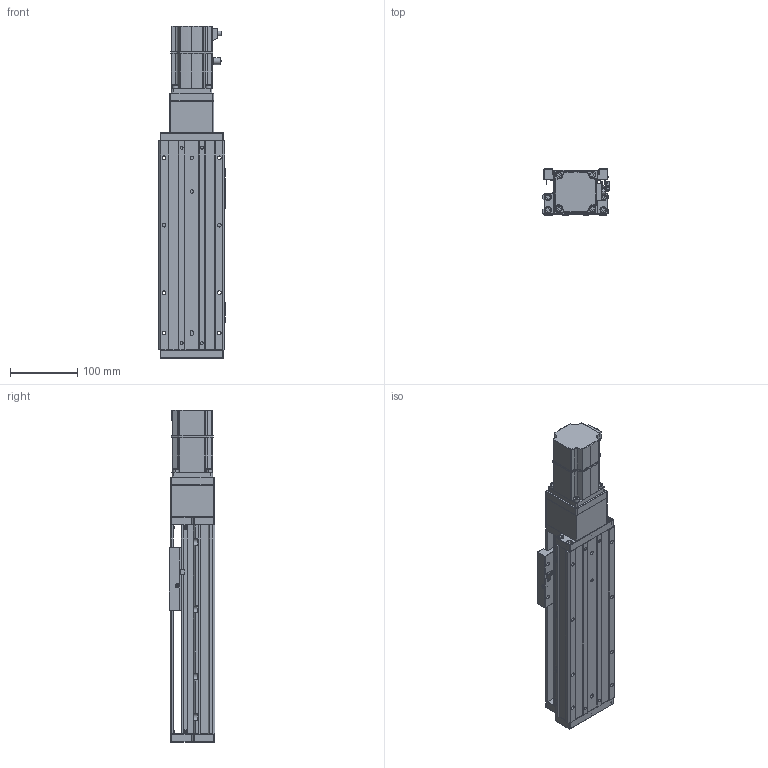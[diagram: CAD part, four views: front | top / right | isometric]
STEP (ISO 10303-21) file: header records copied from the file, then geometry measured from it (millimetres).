
FILE_DESCRIPTION (( 'STEP AP203' ), '1' );
FILE_NAME ('KTHA100-150-BC-M20-C4L.step', '2022-04-26T01:43:29', ( '微软用户' ), ( '微软中国' ), 'SwSTEP 2.0', 'SolidWorks 2020', '' );
FILE_SCHEMA (( 'CONFIG_CONTROL_DESIGN' ));
Length unit declared in the file: millimetre
Products named in the file (18): CTHA86-013; KTHA100-002; GBT77-2000 M3×3; CTHA86-027; KTHA100-004; GBT 70.1-M3℅6; CTHA86-006-1_CTHA86-006-2; KTHA100-005; GBT70.1 M5℅16; KTHA100-150-BC-M20-C4L; GB¨uT 70.2-M3¡Á5_M3¡Á6; CTHA60-016; EE_SX911P_R; GBT 70.3-M3℅6; CTHA60-017; _X2_4E0983F1_X0_200W_1; KTHA100-001_310; CTHA60-021
Assembly tree (56 placements, depth 2):
  KTHA100-150-BC-M20-C4L
    KTHA100-001_310
    KTHA100-002
    KTHA100-004
    KTHA100-005
    GB¨uT 70.2-M3¡Á5_M3¡Á6  x6
    EE_SX911P_R  x3
    CTHA60-017  x3
    CTHA60-021  x2
    GBT77-2000 M3×3  x6
    GBT 70.1-M3℅6  x6
    GBT70.1 M5℅16  x14
    CTHA60-016  x2
    GBT 70.3-M3℅6  x6
    _X2_4E0983F1_X0_200W_1
    CTHA86-013
    CTHA86-027
    CTHA86-006-1_CTHA86-006-2
Bounding box: 98.82 x 68 x 492.5 mm (x, y, z)
Volume: 1922166.1 mm3; surface area: 339158.3 mm2
Topology: 59 solids, 59 shells, 2327 faces, 5520 edges, 3400 vertices
Faces by surface type: plane 1179, cylinder 637, cone 322, torus 104, bspline 69, sphere 16
Entity records: 39014 total; most frequent: CARTESIAN_POINT 7527, DIRECTION 6109, ORIENTED_EDGE 5808, EDGE_CURVE 2904, AXIS2_PLACEMENT_3D 2154, VERTEX_POINT 1818, LINE 1801, VECTOR 1801
